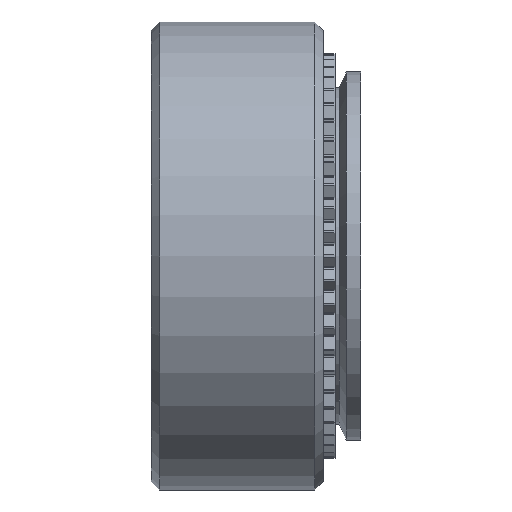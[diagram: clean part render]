
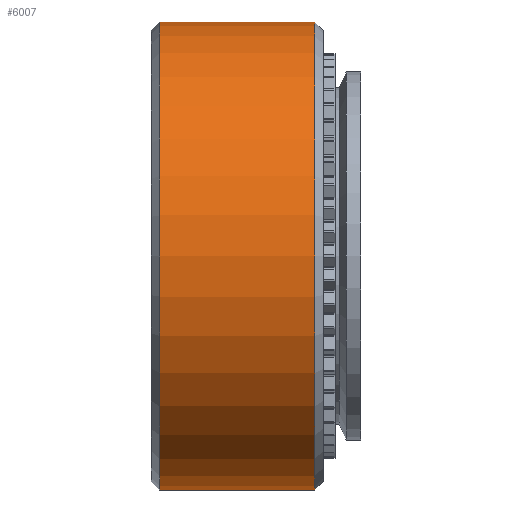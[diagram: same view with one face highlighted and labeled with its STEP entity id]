
A CAD part, left-side view. The second image highlights one B-rep face of the part: STEP entity #6007.
In plain terms, the highlighted cylindrical face has radius 5.55 mm (diameter 11.1 mm), a full revolution.
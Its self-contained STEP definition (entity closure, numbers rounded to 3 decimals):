
#127=CYLINDRICAL_SURFACE('',#6358,5.55);
#340=FACE_OUTER_BOUND('',#665,.T.);
#665=EDGE_LOOP('',(#4086,#4087,#4088,#4089,#4090,#4091));
#994=LINE('',#9164,#1523);
#1523=VECTOR('',#7123,5.55);
#2052=CIRCLE('',#6356,5.55);
#2053=CIRCLE('',#6357,5.55);
#2054=CIRCLE('',#6359,5.55);
#2055=CIRCLE('',#6360,5.55);
#2483=VERTEX_POINT('',#9157);
#2484=VERTEX_POINT('',#9159);
#2485=VERTEX_POINT('',#9163);
#2486=VERTEX_POINT('',#9165);
#3123=EDGE_CURVE('',#2483,#2484,#2052,.T.);
#3124=EDGE_CURVE('',#2484,#2483,#2053,.T.);
#3125=EDGE_CURVE('',#2484,#2485,#994,.T.);
#3126=EDGE_CURVE('',#2486,#2485,#2054,.T.);
#3127=EDGE_CURVE('',#2485,#2486,#2055,.T.);
#4086=ORIENTED_EDGE('',*,*,#3123,.F.);
#4087=ORIENTED_EDGE('',*,*,#3124,.F.);
#4088=ORIENTED_EDGE('',*,*,#3125,.T.);
#4089=ORIENTED_EDGE('',*,*,#3126,.F.);
#4090=ORIENTED_EDGE('',*,*,#3127,.F.);
#4091=ORIENTED_EDGE('',*,*,#3125,.F.);
#6007=ADVANCED_FACE('',(#340),#127,.T.);
#6356=AXIS2_PLACEMENT_3D('',#9160,#7117,#7118);
#6357=AXIS2_PLACEMENT_3D('',#9161,#7119,#7120);
#6358=AXIS2_PLACEMENT_3D('',#9162,#7121,#7122);
#6359=AXIS2_PLACEMENT_3D('',#9166,#7124,#7125);
#6360=AXIS2_PLACEMENT_3D('',#9167,#7126,#7127);
#7117=DIRECTION('center_axis',(0.,1.,0.));
#7118=DIRECTION('ref_axis',(1.,0.,0.));
#7119=DIRECTION('center_axis',(0.,1.,0.));
#7120=DIRECTION('ref_axis',(1.,0.,0.));
#7121=DIRECTION('center_axis',(0.,1.,0.));
#7122=DIRECTION('ref_axis',(-1.,0.,0.));
#7123=DIRECTION('',(0.,-1.,0.));
#7124=DIRECTION('center_axis',(0.,-1.,0.));
#7125=DIRECTION('ref_axis',(1.,0.,0.));
#7126=DIRECTION('center_axis',(0.,-1.,0.));
#7127=DIRECTION('ref_axis',(1.,0.,0.));
#9157=CARTESIAN_POINT('',(-5.55,4.77,0.));
#9159=CARTESIAN_POINT('',(5.55,4.77,0.));
#9160=CARTESIAN_POINT('Origin',(0.,4.77,0.));
#9161=CARTESIAN_POINT('Origin',(0.,4.77,0.));
#9162=CARTESIAN_POINT('Origin',(0.,2.93,0.));
#9163=CARTESIAN_POINT('',(5.55,1.09,0.));
#9164=CARTESIAN_POINT('',(5.55,2.93,0.));
#9165=CARTESIAN_POINT('',(-5.55,1.09,0.));
#9166=CARTESIAN_POINT('Origin',(0.,1.09,0.));
#9167=CARTESIAN_POINT('Origin',(0.,1.09,0.));
